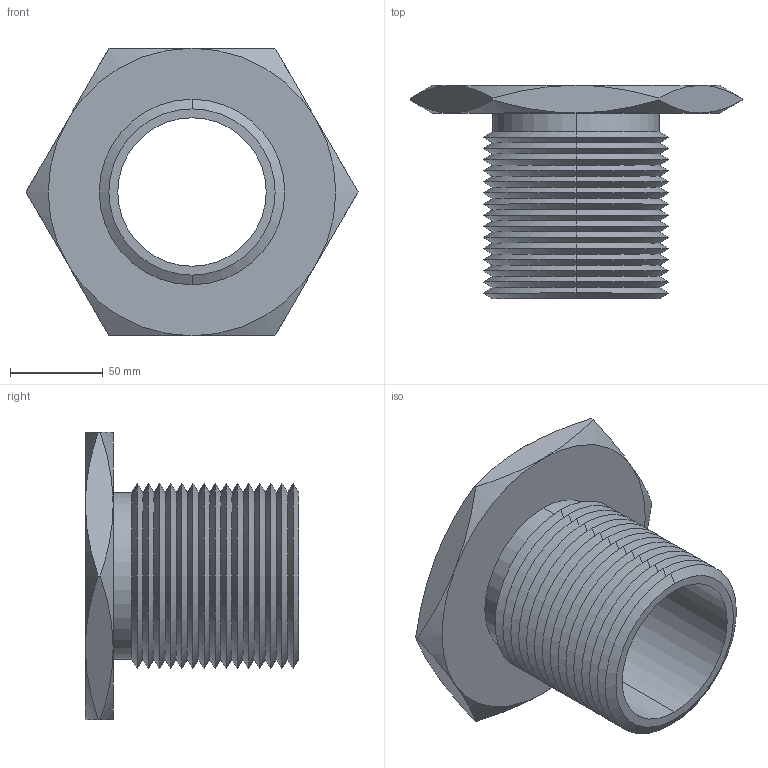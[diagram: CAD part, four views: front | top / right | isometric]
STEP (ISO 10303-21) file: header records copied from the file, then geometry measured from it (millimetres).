
FILE_DESCRIPTION (( 'STEP AP203' ), '1' );
FILE_NAME ('63302.W0100_M80x6.step', '2013-12-08T11:32:53', ( 'User' ), ( '' ), 'SwSTEP 2.0', 'SolidWorks 2009', '' );
FILE_SCHEMA (( 'CONFIG_CONTROL_DESIGN' ));
Length unit declared in the file: millimetre
Products named in the file (1): 63302.W0100_M80x6
Bounding box: 178.98 x 115 x 155 mm (x, y, z)
Volume: 420215.1 mm3; surface area: 122154.7 mm2
Topology: 1 solids, 1 shells, 87 faces, 178 edges, 94 vertices
Faces by surface type: cone 74, plane 9, cylinder 4
Entity records: 2479 total; most frequent: CARTESIAN_POINT 584, DIRECTION 412, ORIENTED_EDGE 356, EDGE_CURVE 178, AXIS2_PLACEMENT_3D 170, VERTEX_POINT 94, EDGE_LOOP 90, ADVANCED_FACE 87
